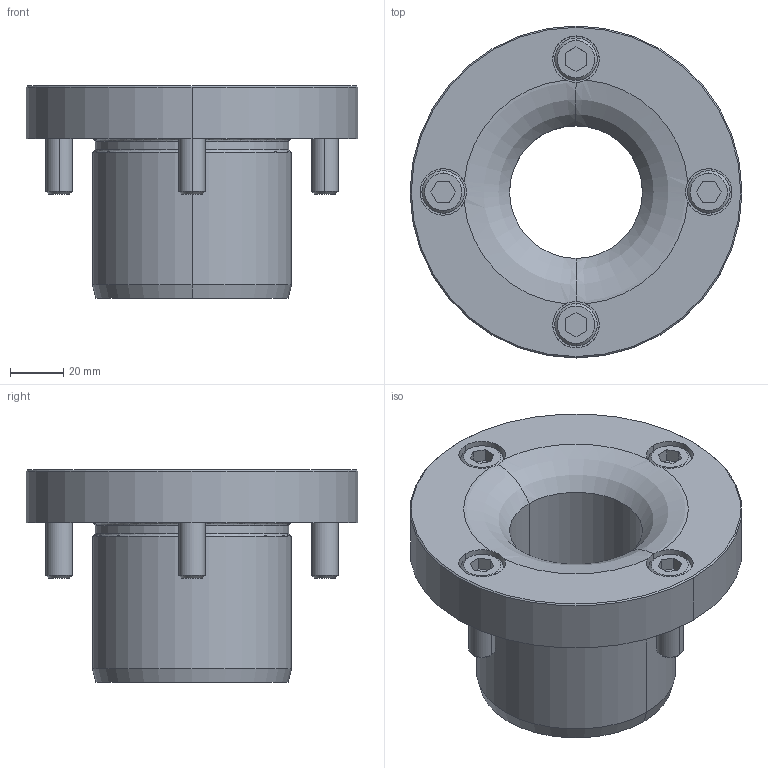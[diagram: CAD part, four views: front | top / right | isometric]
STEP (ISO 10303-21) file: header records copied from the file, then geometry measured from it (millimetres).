
FILE_DESCRIPTION((''),'2;1');
FILE_NAME('','2010-09-07T13:56:00+09:00',('misumi'),(''),'M/STEP i/f 1R2-14','CADmeister v5.1','');
FILE_SCHEMA(('AUTOMOTIVE_DESIGN'));
Length unit declared in the file: millimetre
Products named in the file (1): HGBF50
Bounding box: 125 x 125 x 80 mm (x, y, z)
Volume: 344337.4 mm3; surface area: 64514 mm2
Topology: 5 solids, 5 shells, 115 faces, 260 edges, 164 vertices
Faces by surface type: plane 47, cylinder 40, cone 20, revolution 8
Entity records: 3429 total; most frequent: DIRECTION 616, CARTESIAN_POINT 568, ORIENTED_EDGE 512, EDGE_CURVE 256, AXIS2_PLACEMENT_3D 238, VERTEX_POINT 160, EDGE_LOOP 134, LINE 132
